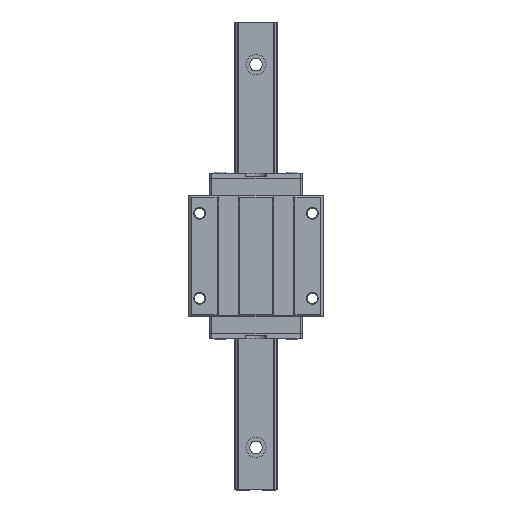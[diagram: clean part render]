
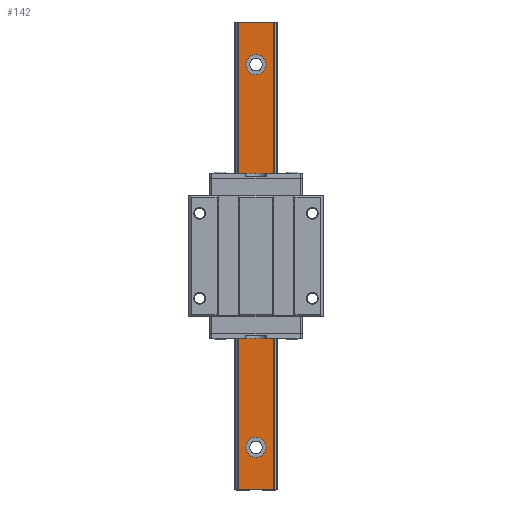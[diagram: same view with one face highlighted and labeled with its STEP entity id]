
A CAD part, top view. The second image highlights one B-rep face of the part: STEP entity #142.
In plain terms, the highlighted planar face has unit normal (0, 0, 1).
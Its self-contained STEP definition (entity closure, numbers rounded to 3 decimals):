
#142 = ADVANCED_FACE( '', ( #310, #311, #312, #313, #314 ), #315, .T. );
#310 = FACE_BOUND( '', #554, .T. );
#311 = FACE_BOUND( '', #555, .T. );
#312 = FACE_BOUND( '', #556, .T. );
#313 = FACE_BOUND( '', #557, .T. );
#314 = FACE_OUTER_BOUND( '', #558, .T. );
#315 = PLANE( '', #559 );
#554 = EDGE_LOOP( '', ( #1098 ) );
#555 = EDGE_LOOP( '', ( #1099 ) );
#556 = EDGE_LOOP( '', ( #1100 ) );
#557 = EDGE_LOOP( '', ( #1101 ) );
#558 = EDGE_LOOP( '', ( #1102, #1103, #1104, #1105 ) );
#559 = AXIS2_PLACEMENT_3D( '', #1106, #1107, #1108 );
#1098 = ORIENTED_EDGE( '', *, *, #2416, .T. );
#1099 = ORIENTED_EDGE( '', *, *, #2417, .T. );
#1100 = ORIENTED_EDGE( '', *, *, #2418, .T. );
#1101 = ORIENTED_EDGE( '', *, *, #2419, .T. );
#1102 = ORIENTED_EDGE( '', *, *, #2420, .F. );
#1103 = ORIENTED_EDGE( '', *, *, #2421, .F. );
#1104 = ORIENTED_EDGE( '', *, *, #2422, .T. );
#1105 = ORIENTED_EDGE( '', *, *, #2423, .T. );
#1106 = CARTESIAN_POINT( '', ( 8.25, -110., 16.5 ) );
#1107 = DIRECTION( '', ( 0., 0., 1. ) );
#1108 = DIRECTION( '', ( 1., 0., 0. ) );
#2416 = EDGE_CURVE( '', #3391, #3391, #3392, .T. );
#2417 = EDGE_CURVE( '', #3393, #3393, #3394, .T. );
#2418 = EDGE_CURVE( '', #3395, #3395, #3396, .T. );
#2419 = EDGE_CURVE( '', #3397, #3397, #3398, .T. );
#2420 = EDGE_CURVE( '', #3399, #3400, #3401, .T. );
#2421 = EDGE_CURVE( '', #3402, #3399, #3403, .T. );
#2422 = EDGE_CURVE( '', #3402, #3404, #3405, .T. );
#2423 = EDGE_CURVE( '', #3404, #3400, #3406, .T. );
#3391 = VERTEX_POINT( '', #6403 );
#3392 = CIRCLE( '', #6404, 4.75 );
#3393 = VERTEX_POINT( '', #6405 );
#3394 = CIRCLE( '', #6406, 4.75 );
#3395 = VERTEX_POINT( '', #6407 );
#3396 = CIRCLE( '', #6408, 4.75 );
#3397 = VERTEX_POINT( '', #6409 );
#3398 = CIRCLE( '', #6410, 4.75 );
#3399 = VERTEX_POINT( '', #6411 );
#3400 = VERTEX_POINT( '', #6412 );
#3401 = LINE( '', #6413, #6414 );
#3402 = VERTEX_POINT( '', #6415 );
#3403 = LINE( '', #6416, #6417 );
#3404 = VERTEX_POINT( '', #6418 );
#3405 = LINE( '', #6419, #6420 );
#3406 = LINE( '', #6421, #6422 );
#6403 = CARTESIAN_POINT( '', ( 4.75, 90., 16.5 ) );
#6404 = AXIS2_PLACEMENT_3D( '', #7695, #7696, #7697 );
#6405 = CARTESIAN_POINT( '', ( 4.75, 30., 16.5 ) );
#6406 = AXIS2_PLACEMENT_3D( '', #7698, #7699, #7700 );
#6407 = CARTESIAN_POINT( '', ( 4.75, -30., 16.5 ) );
#6408 = AXIS2_PLACEMENT_3D( '', #7701, #7702, #7703 );
#6409 = CARTESIAN_POINT( '', ( 4.75, -90., 16.5 ) );
#6410 = AXIS2_PLACEMENT_3D( '', #7704, #7705, #7706 );
#6411 = CARTESIAN_POINT( '', ( -8.25, 110., 16.5 ) );
#6412 = CARTESIAN_POINT( '', ( 8.25, 110., 16.5 ) );
#6413 = CARTESIAN_POINT( '', ( 8.25, 110., 16.5 ) );
#6414 = VECTOR( '', #7707, 1000. );
#6415 = CARTESIAN_POINT( '', ( -8.25, -110., 16.5 ) );
#6416 = CARTESIAN_POINT( '', ( -8.25, -110., 16.5 ) );
#6417 = VECTOR( '', #7708, 1000. );
#6418 = CARTESIAN_POINT( '', ( 8.25, -110., 16.5 ) );
#6419 = CARTESIAN_POINT( '', ( 8.25, -110., 16.5 ) );
#6420 = VECTOR( '', #7709, 1000. );
#6421 = CARTESIAN_POINT( '', ( 8.25, -110., 16.5 ) );
#6422 = VECTOR( '', #7710, 1000. );
#7695 = CARTESIAN_POINT( '', ( 0., 90., 16.5 ) );
#7696 = DIRECTION( '', ( 0., 0., -1. ) );
#7697 = DIRECTION( '', ( 1., 0., 0. ) );
#7698 = CARTESIAN_POINT( '', ( 0., 30., 16.5 ) );
#7699 = DIRECTION( '', ( 0., 0., -1. ) );
#7700 = DIRECTION( '', ( 1., 0., 0. ) );
#7701 = CARTESIAN_POINT( '', ( 0., -30., 16.5 ) );
#7702 = DIRECTION( '', ( 0., 0., -1. ) );
#7703 = DIRECTION( '', ( 1., 0., 0. ) );
#7704 = CARTESIAN_POINT( '', ( 0., -90., 16.5 ) );
#7705 = DIRECTION( '', ( 0., 0., -1. ) );
#7706 = DIRECTION( '', ( 1., 0., 0. ) );
#7707 = DIRECTION( '', ( 1., 0., 0. ) );
#7708 = DIRECTION( '', ( 0., 1., 0. ) );
#7709 = DIRECTION( '', ( 1., 0., 0. ) );
#7710 = DIRECTION( '', ( 0., 1., 0. ) );
